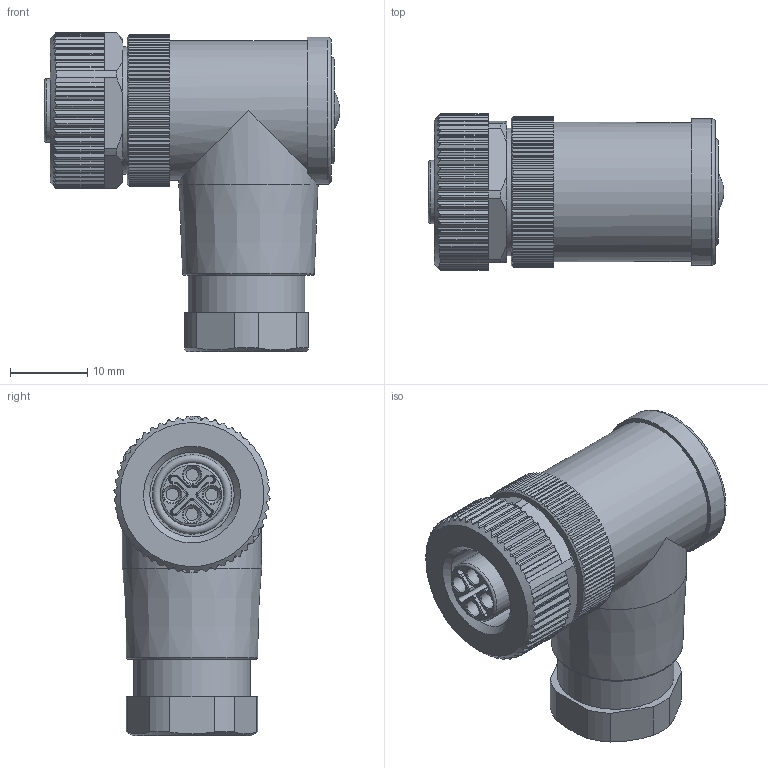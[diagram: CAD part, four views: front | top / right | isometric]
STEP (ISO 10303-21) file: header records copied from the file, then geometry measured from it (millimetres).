
FILE_DESCRIPTION(/* description */ (''),/* implementation_level */ '2;1');
FILE_NAME(/* name */ '99-0690-48-04.stp',/* time_stamp */ '2022-07-12T14:38:28+02:00',/* author */ (''),/* organization */ (''),/* preprocessor_version */ 'ST-DEVELOPER v16',/* originating_system */ 'SIEMENS PLM Software NX 11.0',/* authorisation */ '');
FILE_SCHEMA (('AUTOMOTIVE_DESIGN { 1 0 10303 214 3 1 1 1 }'));
Length unit declared in the file: millimetre
Products named in the file (1): pmay1AF0CE33wpah
Bounding box: 38.2 x 20.17 x 41.25 mm (x, y, z)
Volume: 14636.8 mm3; surface area: 5385.2 mm2
Topology: 1 solids, 1 shells, 698 faces, 1952 edges, 1270 vertices
Faces by surface type: plane 367, cylinder 279, torus 26, cone 19, sphere 6, bspline 1
Full cylindrical faces by diameter (mm): 1.6 x4, 2.25 x4, 2.35 x4, 8.2 x2, 9.5 x1, 10.917 x1, 15.1 x1, 15.8 x1, 16.525 x1, 18 x2, 19 x1
Entity records: 23666 total; most frequent: CARTESIAN_POINT 6411, ORIENTED_EDGE 3764, DIRECTION 3367, EDGE_CURVE 1882, VERTEX_POINT 1247, AXIS2_PLACEMENT_3D 1203, LINE 961, VECTOR 961
